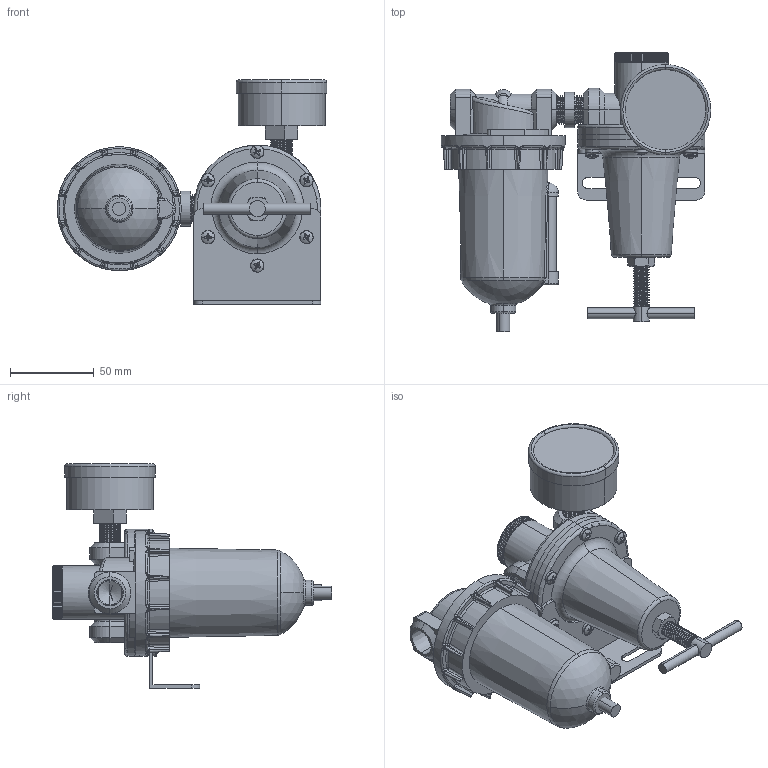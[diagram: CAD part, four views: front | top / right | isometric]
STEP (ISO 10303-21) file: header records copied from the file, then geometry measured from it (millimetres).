
FILE_DESCRIPTION (( 'STEP AP203' ), '1' );
FILE_NAME ('U628#W-03#YB#.STEP', '2016-02-16T06:51:36', ( 'Toshiba' ), ( 'Toshiba' ), 'SwSTEP 2.0', 'SolidWorks 2014', '' );
FILE_SCHEMA (( 'CONFIG_CONTROL_DESIGN' ));
Length unit declared in the file: millimetre
Products named in the file (20): F602W-03#YB#; 50-P-AD=1-4PT.SLDPRT; 50-P-AD=1-4PT-1; R119-03; R119-02-2; KW15Y57; R119-02-4; R119-02-1; U628#W-03#YB#; 50-P-AD=1-4PT-2; L606-W-06-5; R119-02-7; ISO 7045 - M4 x 16; R119-02-5; R119-02-6
Assembly tree (24 placements, depth 4):
  U628#W-03#YB#
    R119-03
      R119-02-1
      R119-02-2
      (unnamed)
      R119-02-4
      ISO 7045 - M4 x 16  x6
      R119-02-5
      R119-02-6
      R119-02-7
      KW15Y57
      50-P-AD=1-4PT.SLDPRT
        50-P-AD=1-4PT-1
        50-P-AD=1-4PT-2
    (unnamed)
    F602W-03#YB#
      (unnamed)
      L606-W-06-5
      (unnamed)
      (unnamed)
Bounding box: 161 x 167 x 134 mm (x, y, z)
Volume: 562595.4 mm3; surface area: 119263.4 mm2
Topology: 21 solids, 21 shells, 1209 faces, 2962 edges, 1765 vertices
Faces by surface type: plane 416, cylinder 297, cone 258, bspline 115, torus 78, sphere 45
Entity records: 44830 total; most frequent: CARTESIAN_POINT 20085, ORIENTED_EDGE 5008, DIRECTION 4416, EDGE_CURVE 2504, AXIS2_PLACEMENT_3D 1822, VERTEX_POINT 1510, EDGE_LOOP 1078, ADVANCED_FACE 1039
